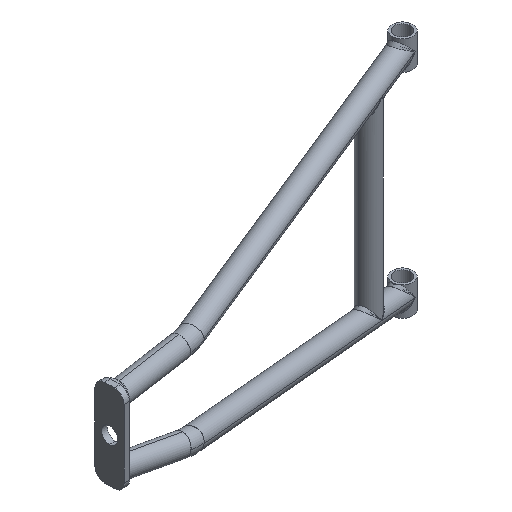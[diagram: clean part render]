
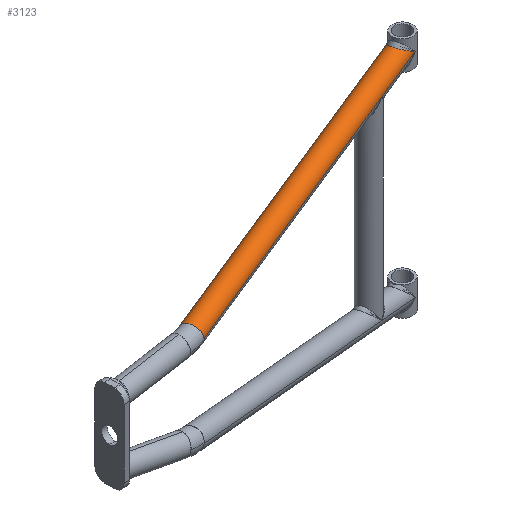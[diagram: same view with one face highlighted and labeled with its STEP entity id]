
A CAD part, isometric view. The second image highlights one B-rep face of the part: STEP entity #3123.
In plain terms, the highlighted cylindrical face has radius 10.65 mm (diameter 21.3 mm), a partial arc.
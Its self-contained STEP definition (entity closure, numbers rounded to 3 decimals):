
#10 = CARTESIAN_POINT ( 'NONE',  ( 385.442, 96.013, 110. ) ) ;
#265 = DIRECTION ( 'NONE',  ( 0.944, 0.263, 0.2 ) ) ;
#266 = VECTOR ( 'NONE', #265, 1000. ) ;
#267 = CARTESIAN_POINT ( 'NONE',  ( 83.521, 12.034, 46.194 ) ) ;
#271 = LINE ( 'NONE', #267, #266 ) ;
#518 = CYLINDRICAL_SURFACE ( 'NONE', #563, 10.65 ) ;
#519 = FACE_OUTER_BOUND ( 'NONE', #3124, .T. ) ;
#521 = DIRECTION ( 'NONE',  ( 0.944, 0.263, 0.2 ) ) ;
#522 = VECTOR ( 'NONE', #521, 1000. ) ;
#523 = CARTESIAN_POINT ( 'NONE',  ( 89.229, -8.487, 46.194 ) ) ;
#524 = LINE ( 'NONE', #523, #522 ) ;
#546 = CARTESIAN_POINT ( 'NONE',  ( 377.646, 85.753, 118.382 ) ) ;
#547 = CARTESIAN_POINT ( 'NONE',  ( 377.646, 85.753, 118.382 ) ) ;
#548 = CARTESIAN_POINT ( 'NONE',  ( 377.646, 90.723, 117.294 ) ) ;
#549 = CARTESIAN_POINT ( 'NONE',  ( 380.653, 94.681, 114.061 ) ) ;
#550 = CARTESIAN_POINT ( 'NONE',  ( 385.442, 96.013, 110. ) ) ;
#551 =( BOUNDED_CURVE ( )  B_SPLINE_CURVE ( 3, ( #550, #549, #548, #547 ),
 .UNSPECIFIED., .F., .T. ) 
 B_SPLINE_CURVE_WITH_KNOTS ( ( 4, 4 ),
 ( 1.571, 2.87 ),
 .UNSPECIFIED. ) 
 CURVE ( )  GEOMETRIC_REPRESENTATION_ITEM ( )  RATIONAL_B_SPLINE_CURVE ( ( 1., 0.864, 0.864, 1. ) ) 
 REPRESENTATION_ITEM ( '' )  );
#552 = CARTESIAN_POINT ( 'NONE',  ( 391.15, 75.492, 110. ) ) ;
#553 = CARTESIAN_POINT ( 'NONE',  ( 83.521, 12.034, 46.194 ) ) ;
#554 = CARTESIAN_POINT ( 'NONE',  ( 89.229, -8.487, 46.194 ) ) ;
#555 = DIRECTION ( 'NONE',  ( 0.268, -0.963, 0. ) ) ;
#556 = DIRECTION ( 'NONE',  ( -0.944, -0.263, -0.2 ) ) ;
#557 = CARTESIAN_POINT ( 'NONE',  ( 86.375, 1.773, 46.194 ) ) ;
#558 = AXIS2_PLACEMENT_3D ( 'NONE', #557, #556, #555 ) ;
#559 = DIRECTION ( 'NONE',  ( -0.268, 0.963, 0. ) ) ;
#560 = DIRECTION ( 'NONE',  ( 0.944, 0.263, 0.2 ) ) ;
#561 = CIRCLE ( 'NONE', #558, 10.65 ) ;
#562 = CARTESIAN_POINT ( 'NONE',  ( 86.375, 1.773, 46.194 ) ) ;
#563 = AXIS2_PLACEMENT_3D ( 'NONE', #562, #560, #559 ) ;
#2551 = EDGE_CURVE ( 'NONE', #3132, #3129, #4897, .T. ) ;
#2963 = VERTEX_POINT ( 'NONE', #10 ) ;
#3094 = EDGE_CURVE ( 'NONE', #3128, #2963, #271, .T. ) ;
#3118 = ORIENTED_EDGE ( 'NONE', *, *, #3119, .T. ) ;
#3119 = EDGE_CURVE ( 'NONE', #3127, #3129, #524, .T. ) ;
#3120 = ORIENTED_EDGE ( 'NONE', *, *, #2551, .F. ) ;
#3123 = ADVANCED_FACE ( 'NONE', ( #519 ), #518, .T. ) ;
#3124 = EDGE_LOOP ( 'NONE', ( #3125, #3118, #3120, #4237, #4238 ) ) ;
#3125 = ORIENTED_EDGE ( 'NONE', *, *, #3126, .F. ) ;
#3126 = EDGE_CURVE ( 'NONE', #3127, #3128, #561, .T. ) ;
#3127 = VERTEX_POINT ( 'NONE', #554 ) ;
#3128 = VERTEX_POINT ( 'NONE', #553 ) ;
#3129 = VERTEX_POINT ( 'NONE', #552 ) ;
#3131 = EDGE_CURVE ( 'NONE', #2963, #3132, #551, .T. ) ;
#3132 = VERTEX_POINT ( 'NONE', #546 ) ;
#4237 = ORIENTED_EDGE ( 'NONE', *, *, #3131, .F. ) ;
#4238 = ORIENTED_EDGE ( 'NONE', *, *, #3094, .F. ) ;
#4892 = CARTESIAN_POINT ( 'NONE',  ( 391.15, 75.492, 110. ) ) ;
#4893 = CARTESIAN_POINT ( 'NONE',  ( 383.757, 73.436, 116.269 ) ) ;
#4894 = CARTESIAN_POINT ( 'NONE',  ( 377.646, 78.079, 120.062 ) ) ;
#4895 = CARTESIAN_POINT ( 'NONE',  ( 377.646, 85.753, 118.382 ) ) ;
#4897 =( BOUNDED_CURVE ( )  B_SPLINE_CURVE ( 3, ( #4895, #4894, #4893, #4892 ),
 .UNSPECIFIED., .F., .T. ) 
 B_SPLINE_CURVE_WITH_KNOTS ( ( 4, 4 ),
 ( 2.87, 4.712 ),
 .UNSPECIFIED. ) 
 CURVE ( )  GEOMETRIC_REPRESENTATION_ITEM ( )  RATIONAL_B_SPLINE_CURVE ( ( 1., 0.737, 0.737, 1. ) ) 
 REPRESENTATION_ITEM ( '' )  );
